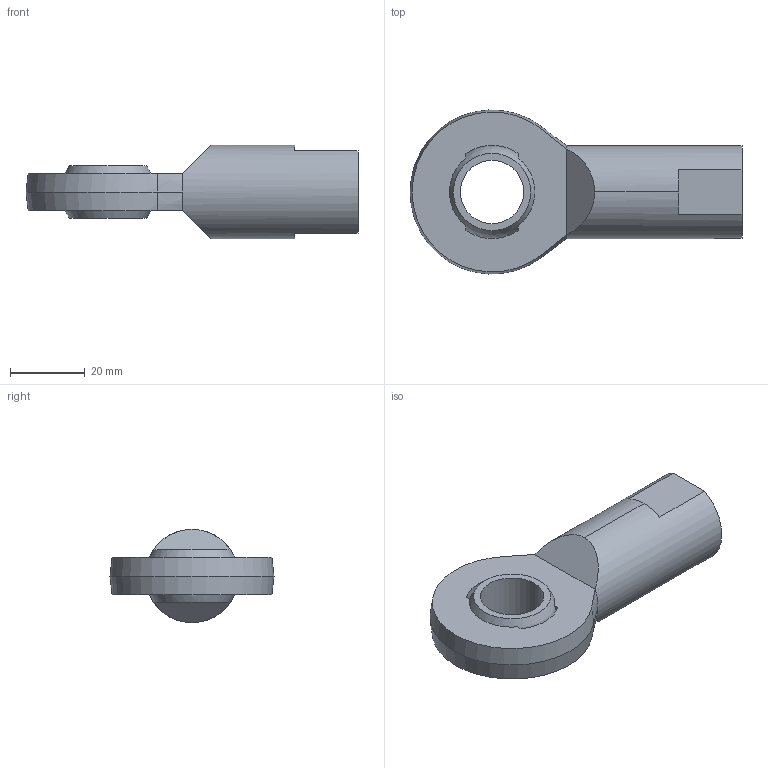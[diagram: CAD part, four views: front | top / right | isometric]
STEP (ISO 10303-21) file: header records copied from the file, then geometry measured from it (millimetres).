
FILE_DESCRIPTION (( 'STEP AP203' ), '1' );
FILE_NAME ('65880.W0217.step', '2014-02-06T18:31:57', ( 'User' ), ( '' ), 'SwSTEP 2.0', 'SolidWorks 2009', '' );
FILE_SCHEMA (( 'CONFIG_CONTROL_DESIGN' ));
Length unit declared in the file: millimetre
Products named in the file (3): 65880.W0217; Part1_65880.W0217; Part2_65880.W0217
Assembly tree (2 placements, depth 2):
  65880.W0217
    Part1_65880.W0217
    Part2_65880.W0217
Bounding box: 89 x 43.97 x 25 mm (x, y, z)
Volume: 28424.9 mm3; surface area: 11791.7 mm2
Topology: 2 solids, 2 shells, 45 faces, 108 edges, 67 vertices
Faces by surface type: plane 20, cylinder 10, sphere 8, cone 7
Entity records: 1616 total; most frequent: DIRECTION 253, CARTESIAN_POINT 245, ORIENTED_EDGE 208, AXIS2_PLACEMENT_3D 107, EDGE_CURVE 104, VERTEX_POINT 67, CIRCLE 57, EDGE_LOOP 53
